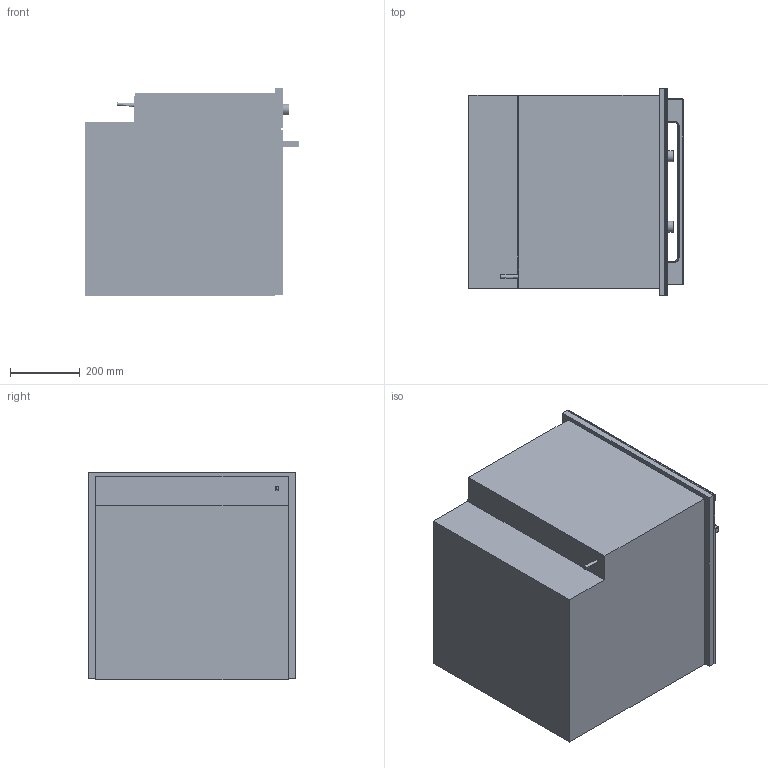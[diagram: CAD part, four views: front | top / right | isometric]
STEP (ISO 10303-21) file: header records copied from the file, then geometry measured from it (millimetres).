
FILE_DESCRIPTION(/* description */ (''),/* implementation_level */ '2;1');
FILE_NAME(/* name */ 'H6160B_CLST',/* time_stamp */ '2013-03-08T17:25:57+01:00',/* author */ (''),/* organization */ (''),/* preprocessor_version */ 'ST-DEVELOPER v10',/* originating_system */ '',/* authorisation */ '');
FILE_SCHEMA (('AUTOMOTIVE_DESIGN_CC2'));
Length unit declared in the file: millimetre
Products named in the file (1): 1
Bounding box: 614.86 x 595.42 x 596.08 mm (x, y, z)
Volume: 102788246.9 mm3; surface area: 4268988.9 mm2
Topology: 44 solids, 45 shells, 254 faces, 451 edges, 278 vertices
Faces by surface type: bspline 254
Entity records: 88293 total; most frequent: CARTESIAN_POINT 85064, ORIENTED_EDGE 878, EDGE_CURVE 441, VERTEX_POINT 278, EDGE_LOOP 260, ADVANCED_FACE 254, FACE_OUTER_BOUND 254, B_SPLINE_CURVE_WITH_KNOTS 228
